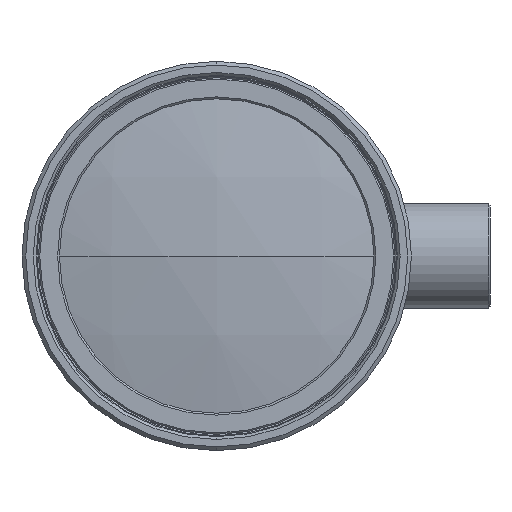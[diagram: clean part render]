
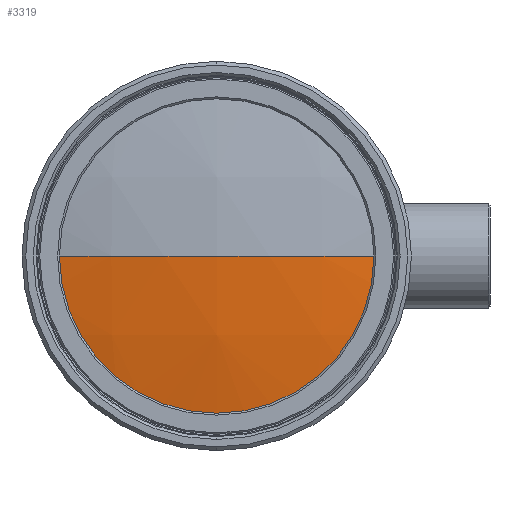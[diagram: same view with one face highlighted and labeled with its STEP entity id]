
A CAD part, left-side view. The second image highlights one B-rep face of the part: STEP entity #3319.
In plain terms, the highlighted spherical face has radius 100.9 mm.
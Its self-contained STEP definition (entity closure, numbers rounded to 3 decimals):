
#55 = VERTEX_POINT ( 'NONE', #4145 ) ;
#82 = CIRCLE ( 'NONE', #4961, 100.9 ) ;
#95 = ORIENTED_EDGE ( 'NONE', *, *, #4042, .T. ) ;
#331 = EDGE_CURVE ( 'NONE', #3297, #4699, #785, .T. ) ;
#604 = ORIENTED_EDGE ( 'NONE', *, *, #331, .F. ) ;
#621 = DIRECTION ( 'NONE',  ( 0., 0., 1. ) ) ;
#662 = CARTESIAN_POINT ( 'NONE',  ( -243.796, -21., 0. ) ) ;
#785 = CIRCLE ( 'NONE', #3449, 100.9 ) ;
#959 = DIRECTION ( 'NONE',  ( 0., 1., 0. ) ) ;
#1130 = DIRECTION ( 'NONE',  ( 0., 0., 1. ) ) ;
#1273 = ORIENTED_EDGE ( 'NONE', *, *, #4843, .T. ) ;
#1565 = EDGE_LOOP ( 'NONE', ( #3211, #1273, #604, #95 ) ) ;
#1570 = FACE_OUTER_BOUND ( 'NONE', #1565, .T. ) ;
#1622 = DIRECTION ( 'NONE',  ( 0., 0., -1. ) ) ;
#1687 = CARTESIAN_POINT ( 'NONE',  ( -243.796, 0., 0. ) ) ;
#1783 = CIRCLE ( 'NONE', #3916, 21. ) ;
#1811 = VERTEX_POINT ( 'NONE', #662 ) ;
#1906 = CARTESIAN_POINT ( 'NONE',  ( -246.006, 0., 0. ) ) ;
#2463 = CARTESIAN_POINT ( 'NONE',  ( -243.796, 21., 0. ) ) ;
#2517 = AXIS2_PLACEMENT_3D ( 'NONE', #1687, #4048, #2828 ) ;
#2532 = CARTESIAN_POINT ( 'NONE',  ( -243.796, 0., 0. ) ) ;
#2625 = DIRECTION ( 'NONE',  ( 1., 0., 0. ) ) ;
#2828 = DIRECTION ( 'NONE',  ( 0., 0., 1. ) ) ;
#2920 = DIRECTION ( 'NONE',  ( -1., 0., 0. ) ) ;
#3211 = ORIENTED_EDGE ( 'NONE', *, *, #4478, .T. ) ;
#3229 = DIRECTION ( 'NONE',  ( 0., 0., -1. ) ) ;
#3297 = VERTEX_POINT ( 'NONE', #2463 ) ;
#3319 = ADVANCED_FACE ( 'NONE', ( #1570 ), #3541, .T. ) ;
#3449 = AXIS2_PLACEMENT_3D ( 'NONE', #4924, #1130, #2625 ) ;
#3541 = SPHERICAL_SURFACE ( 'NONE', #4026, 100.9 ) ;
#3627 = CARTESIAN_POINT ( 'NONE',  ( -145.106, 0., 0. ) ) ;
#3886 = CARTESIAN_POINT ( 'NONE',  ( -145.106, 0., 0. ) ) ;
#3916 = AXIS2_PLACEMENT_3D ( 'NONE', #2532, #2920, #621 ) ;
#3993 = CIRCLE ( 'NONE', #2517, 21. ) ;
#4026 = AXIS2_PLACEMENT_3D ( 'NONE', #3627, #3229, #959 ) ;
#4042 = EDGE_CURVE ( 'NONE', #3297, #55, #1783, .T. ) ;
#4048 = DIRECTION ( 'NONE',  ( -1., 0., 0. ) ) ;
#4145 = CARTESIAN_POINT ( 'NONE',  ( -243.796, 0., -21. ) ) ;
#4237 = DIRECTION ( 'NONE',  ( 0., 1., 0. ) ) ;
#4478 = EDGE_CURVE ( 'NONE', #55, #1811, #3993, .T. ) ;
#4699 = VERTEX_POINT ( 'NONE', #1906 ) ;
#4843 = EDGE_CURVE ( 'NONE', #1811, #4699, #82, .T. ) ;
#4924 = CARTESIAN_POINT ( 'NONE',  ( -145.106, 0., 0. ) ) ;
#4961 = AXIS2_PLACEMENT_3D ( 'NONE', #3886, #1622, #4237 ) ;
